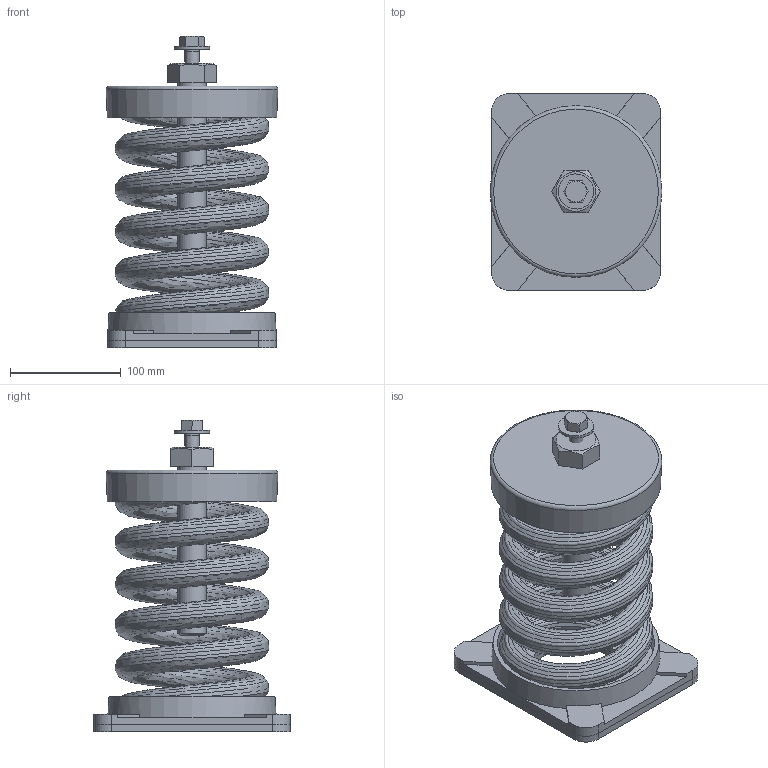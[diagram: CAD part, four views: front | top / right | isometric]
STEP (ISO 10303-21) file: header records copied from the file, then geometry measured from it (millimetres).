
FILE_DESCRIPTION(/* description */ (''),/* implementation_level */ '2;1');
FILE_NAME(/* name */ 'C:\001_Work\Designs\SLF ASSEMBLIES\SLF-112.stp',/* time_stamp */ '2016-01-10T13:52:03-05:00',/* author */ ('rramoutar'),/* organization */ ('Mason Industries Inc.'),/* preprocessor_version */ 'ST-DEVELOPER v15.6',/* originating_system */ 'Autodesk Inventor 2015',/* authorisation */ '');
FILE_SCHEMA (('CONFIG_CONTROL_DESIGN'));
Length unit declared in the file: inch
Products named in the file (1): SLF-112
Bounding box: 155.3 x 177.8 x 281.66 mm (x, y, z)
Volume: 777734.4 mm3; surface area: 507638.3 mm2
Topology: 7 solids, 7 shells, 181 faces, 428 edges, 271 vertices
Faces by surface type: plane 112, cylinder 25, bspline 22, cone 20, torus 2
Full cylindrical faces by diameter (mm): 10.592 x1, 12.7 x5, 13.487 x1, 19.05 x1, 22.225 x1, 25.4 x1, 31.75 x1, 76.2 x2, 142.081 x1, 143.669 x1
Entity records: 15489 total; most frequent: CARTESIAN_POINT 11403, ORIENTED_EDGE 804, DIRECTION 722, EDGE_CURVE 402, VERTEX_POINT 268, AXIS2_PLACEMENT_3D 258, EDGE_LOOP 224, LINE 206
